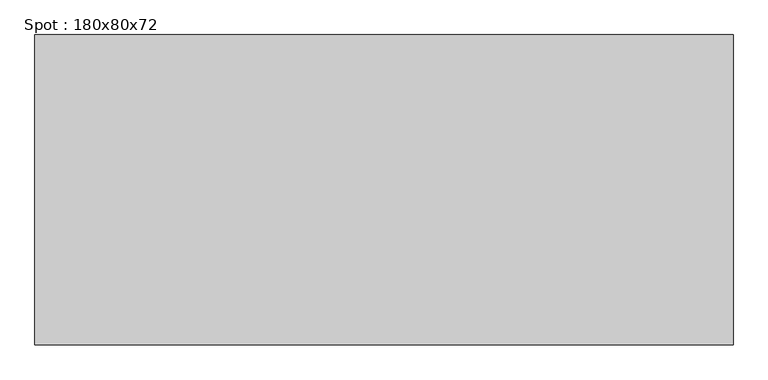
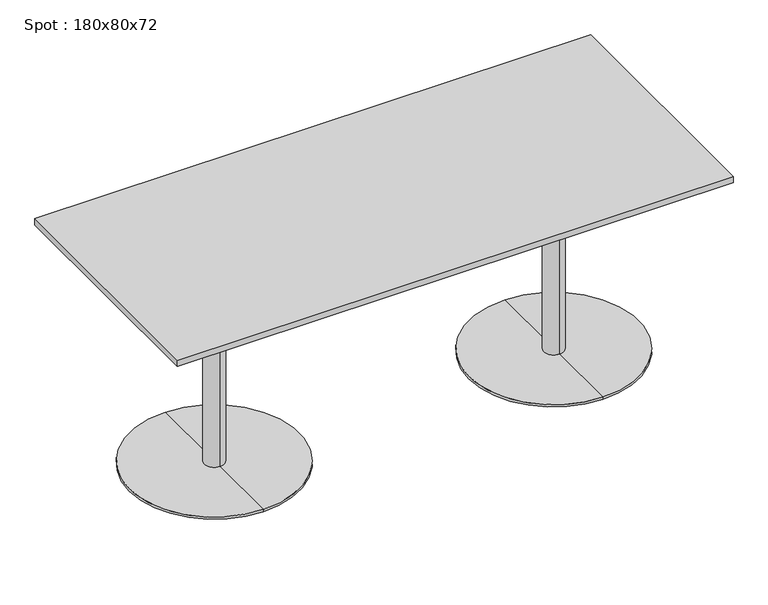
"""IFC4 building model written with IfcOpenShell, lengths in millimetres: furniture geometry, Spot : 180x80x72."""

from ifc_helpers import new_model, si_unit, frame, origin, place, context, project, spatial, polyline, circle_curve, outline, extrude, source, transform, mapped, element, save
from ifc_brep_helpers import plane_surface, cylinder_surface, revolved_surface, advanced_brep


def spot_180x80x72_9926d09f(model_context):
    return source(origin(), model_context, "Body", "SolidModel", [
        extrude(outline(polyline([(900.0, 400.0), (900.0, -400.0), (-900.0, -400.0), (-900.0, 400.0), (900.0, 400.0)])), frame((0.0, 0.0, 698.0), z_axis=(0.0, 0.0, 1.0), x_axis=(1.0, 0.0, 0.0)), (0.0, 0.0, 1.0), 22.0),
        advanced_brep(
        [(-550.0, 32.0, 10.0), (-550.0, -32.0, 10.0), (-550.0, -32.0, 667.406916), (-550.0, 32.0, 667.406916), (-550.0, 275.0, 10.0), (-550.0, -275.0, 10.0), (-550.0, 275.0, 2.0), (-550.0, -275.0, 2.0), (-550.0, 0.0, 2.0), (-550.0, 150.0, 698.0), (-550.0, -150.0, 698.0), (-550.0, 0.0, 698.0), (-550.0, 150.0, 686.7213673), (-550.0, -150.0, 686.7213673)],
        [
            (0, 1, circle_curve(frame((-550.0, 0.0, 10.0), z_axis=(0.0, 0.0, 1.0), x_axis=(0.0, -1.0, 0.0)), 32.0)),
            (1, 2),
            (2, 3, circle_curve(frame((-550.0, 0.0, 667.406916), z_axis=(0.0, 0.0, -1.0), x_axis=(0.0, -1.0, 0.0)), 32.0)),
            (3, 0),
            (1, 0, circle_curve(frame((-550.0, 0.0, 10.0), z_axis=(0.0, 0.0, 1.0), x_axis=(0.0, -1.0, 0.0)), 32.0)),
            (3, 2, circle_curve(frame((-550.0, 0.0, 667.406916), z_axis=(0.0, 0.0, -1.0), x_axis=(0.0, -1.0, 0.0)), 32.0)),
            (4, 5, circle_curve(frame((-550.0, 0.0, 10.0), z_axis=(0.0, 0.0, 1.0), x_axis=(0.0, -1.0, 0.0)), 275.0)),
            (5, 1),
            (0, 4),
            (5, 4, circle_curve(frame((-550.0, 0.0, 10.0), z_axis=(0.0, 0.0, 1.0), x_axis=(0.0, -1.0, 0.0)), 275.0)),
            (6, 7, circle_curve(frame((-550.0, 0.0, 2.0), z_axis=(0.0, 0.0, 1.0), x_axis=(0.0, -1.0, 0.0)), 275.0)),
            (7, 5),
            (4, 6),
            (7, 6, circle_curve(frame((-550.0, 0.0, 2.0), z_axis=(0.0, 0.0, 1.0), x_axis=(0.0, -1.0, 0.0)), 275.0)),
            (8, 7),
            (6, 8),
            (9, 10, circle_curve(frame((-550.0, 0.0, 698.0), z_axis=(0.0, 0.0, 1.0), x_axis=(0.0, -1.0, 0.0)), 150.0)),
            (10, 11),
            (11, 9),
            (10, 9, circle_curve(frame((-550.0, 0.0, 698.0), z_axis=(0.0, 0.0, 1.0), x_axis=(0.0, -1.0, 0.0)), 150.0)),
            (12, 13, circle_curve(frame((-550.0, 0.0, 686.7213673), z_axis=(0.0, 0.0, 1.0), x_axis=(0.0, -1.0, 0.0)), 150.0)),
            (13, 10),
            (9, 12),
            (13, 12, circle_curve(frame((-550.0, 0.0, 686.7213673), z_axis=(0.0, 0.0, 1.0), x_axis=(0.0, -1.0, 0.0)), 150.0)),
            (2, 13),
            (12, 3),
        ],
        [
            cylinder_surface(frame((-550.0, 0.0, 1060.0), z_axis=(0.0, 0.0, -1.0), x_axis=(0.0, -1.0, 0.0)), 32.0),
            plane_surface(frame((-550.0, 0.0, 10.0), z_axis=(0.0, 0.0, 1.0), x_axis=(0.0, -1.0, 0.0))),
            cylinder_surface(frame((-550.0, 0.0, 1060.0), z_axis=(0.0, 0.0, -1.0), x_axis=(0.0, -1.0, 0.0)), 275.0),
            plane_surface(frame((-550.0, 0.0, 2.0), z_axis=(0.0, 0.0, -1.0), x_axis=(0.0, -1.0, 0.0))),
            plane_surface(frame((-550.0, 0.0, 698.0), z_axis=(0.0, 0.0, 1.0), x_axis=(0.0, -1.0, 0.0))),
            cylinder_surface(frame((-550.0, 0.0, 1060.0), z_axis=(0.0, 0.0, -1.0), x_axis=(0.0, -1.0, 0.0)), 150.0),
            revolved_surface(polyline([(-550.0, -150.0, 686.7213673), (-550.0, -32.0, 667.406916)]), (-550.0, 0.0, 1060.0), (0.0, 0.0, -1.0)),
        ],
        [
            (0, [[1, 2, 3, 4]]),
            (0, [[5, -4, 6, -2]]),
            (1, [[7, 8, -1, 9]]),
            (1, [[10, -9, -5, -8]]),
            (2, [[11, 12, -7, 13]]),
            (2, [[14, -13, -10, -12]]),
            (3, [[15, -11, 16]]),
            (3, [[-16, -14, -15]]),
            (4, [[17, 18, 19]]),
            (4, [[20, -19, -18]]),
            (5, [[21, 22, -17, 23]]),
            (5, [[24, -23, -20, -22]]),
            (6, [[-3, 25, -21, 26]]),
            (6, [[-6, -26, -24, -25]]),
        ],
    ),
        advanced_brep(
        [(550.0, 32.0, 10.0), (550.0, -32.0, 10.0), (550.0, -32.0, 667.406916), (550.0, 32.0, 667.406916), (550.0, 275.0, 10.0), (550.0, -275.0, 10.0), (550.0, 275.0, 2.0), (550.0, -275.0, 2.0), (550.0, 0.0, 2.0), (550.0, 150.0, 698.0), (550.0, -150.0, 698.0), (550.0, 0.0, 698.0), (550.0, 150.0, 686.7213673), (550.0, -150.0, 686.7213673)],
        [
            (0, 1, circle_curve(frame((550.0, 0.0, 10.0), z_axis=(0.0, 0.0, 1.0), x_axis=(0.0, -1.0, 0.0)), 32.0)),
            (1, 2),
            (2, 3, circle_curve(frame((550.0, 0.0, 667.406916), z_axis=(0.0, 0.0, -1.0), x_axis=(0.0, -1.0, 0.0)), 32.0)),
            (3, 0),
            (1, 0, circle_curve(frame((550.0, 0.0, 10.0), z_axis=(0.0, 0.0, 1.0), x_axis=(0.0, -1.0, 0.0)), 32.0)),
            (3, 2, circle_curve(frame((550.0, 0.0, 667.406916), z_axis=(0.0, 0.0, -1.0), x_axis=(0.0, -1.0, 0.0)), 32.0)),
            (4, 5, circle_curve(frame((550.0, 0.0, 10.0), z_axis=(0.0, 0.0, 1.0), x_axis=(0.0, -1.0, 0.0)), 275.0)),
            (5, 1),
            (0, 4),
            (5, 4, circle_curve(frame((550.0, 0.0, 10.0), z_axis=(0.0, 0.0, 1.0), x_axis=(0.0, -1.0, 0.0)), 275.0)),
            (6, 7, circle_curve(frame((550.0, 0.0, 2.0), z_axis=(0.0, 0.0, 1.0), x_axis=(0.0, -1.0, 0.0)), 275.0)),
            (7, 5),
            (4, 6),
            (7, 6, circle_curve(frame((550.0, 0.0, 2.0), z_axis=(0.0, 0.0, 1.0), x_axis=(0.0, -1.0, 0.0)), 275.0)),
            (8, 7),
            (6, 8),
            (9, 10, circle_curve(frame((550.0, 0.0, 698.0), z_axis=(0.0, 0.0, 1.0), x_axis=(0.0, -1.0, 0.0)), 150.0)),
            (10, 11),
            (11, 9),
            (10, 9, circle_curve(frame((550.0, 0.0, 698.0), z_axis=(0.0, 0.0, 1.0), x_axis=(0.0, -1.0, 0.0)), 150.0)),
            (12, 13, circle_curve(frame((550.0, 0.0, 686.7213673), z_axis=(0.0, 0.0, 1.0), x_axis=(0.0, -1.0, 0.0)), 150.0)),
            (13, 10),
            (9, 12),
            (13, 12, circle_curve(frame((550.0, 0.0, 686.7213673), z_axis=(0.0, 0.0, 1.0), x_axis=(0.0, -1.0, 0.0)), 150.0)),
            (2, 13),
            (12, 3),
        ],
        [
            cylinder_surface(frame((550.0, 0.0, 1060.0), z_axis=(0.0, 0.0, -1.0), x_axis=(0.0, -1.0, 0.0)), 32.0),
            plane_surface(frame((550.0, 0.0, 10.0), z_axis=(0.0, 0.0, 1.0), x_axis=(0.0, -1.0, 0.0))),
            cylinder_surface(frame((550.0, 0.0, 1060.0), z_axis=(0.0, 0.0, -1.0), x_axis=(0.0, -1.0, 0.0)), 275.0),
            plane_surface(frame((550.0, 0.0, 2.0), z_axis=(0.0, 0.0, -1.0), x_axis=(0.0, -1.0, 0.0))),
            plane_surface(frame((550.0, 0.0, 698.0), z_axis=(0.0, 0.0, 1.0), x_axis=(0.0, -1.0, 0.0))),
            cylinder_surface(frame((550.0, 0.0, 1060.0), z_axis=(0.0, 0.0, -1.0), x_axis=(0.0, -1.0, 0.0)), 150.0),
            revolved_surface(polyline([(550.0, -150.0, 686.7213673), (550.0, -32.0, 667.406916)]), (550.0, 0.0, 1060.0), (0.0, 0.0, -1.0)),
        ],
        [
            (0, [[1, 2, 3, 4]]),
            (0, [[5, -4, 6, -2]]),
            (1, [[7, 8, -1, 9]]),
            (1, [[10, -9, -5, -8]]),
            (2, [[11, 12, -7, 13]]),
            (2, [[14, -13, -10, -12]]),
            (3, [[15, -11, 16]]),
            (3, [[-16, -14, -15]]),
            (4, [[17, 18, 19]]),
            (4, [[20, -19, -18]]),
            (5, [[21, 22, -17, 23]]),
            (5, [[24, -23, -20, -22]]),
            (6, [[-3, 25, -21, 26]]),
            (6, [[-6, -26, -24, -25]]),
        ],
    ),
    ])


if __name__ == "__main__":
    model = new_model("IFC4")
    model_context = context("Model", 3, world=origin())
    ifc_project = project(units=[si_unit("LENGTHUNIT", "METRE", prefix="MILLI")], contexts=[model_context])
    site = spatial("IfcSite", under=ifc_project)
    building = spatial("IfcBuilding", under=site)
    placement = place(None, origin())
    spot_180x80x72_shape = spot_180x80x72_9926d09f(model_context)
    element("IfcFurniture", 1, ObjectType="Spot : 180x80x72", at=placement, inside=building, context=model_context, shape_type="MappedRepresentation", body=[
        mapped(spot_180x80x72_shape, transform((0.0, 0.0, 0.0), x_axis=(1.0, 0.0, 0.0), y_axis=(0.0, 1.0, 0.0), z_axis=(0.0, 0.0, 1.0))),
    ])
    save(model, "model.ifc")
